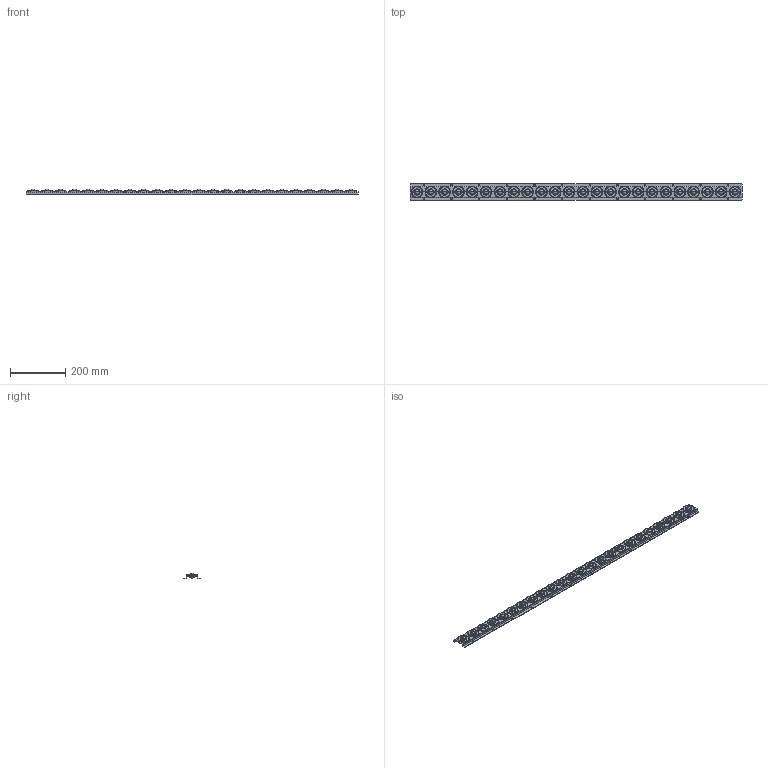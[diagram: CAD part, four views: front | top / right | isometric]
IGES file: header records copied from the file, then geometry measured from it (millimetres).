
Global section: file name: E:\UnigraphicsGraphicData\MISUMI_PRESS-PARTS\IGES\3d_goro-24_03799_r00.igs; native system: NX V5.0; preprocessor: UGS NX IGES V5.0; author: MISUMI; date: 20110105.160731; units: millimetre
Bounding box: 1200 x 59 x 21 mm (x, y, z)
Surface area: 209586.2 mm2 (no closed solid volume)
Topology: 0 solids, 0 shells, 600 faces, 4844 edges, 4748 vertices
Faces by surface type: bspline 600
